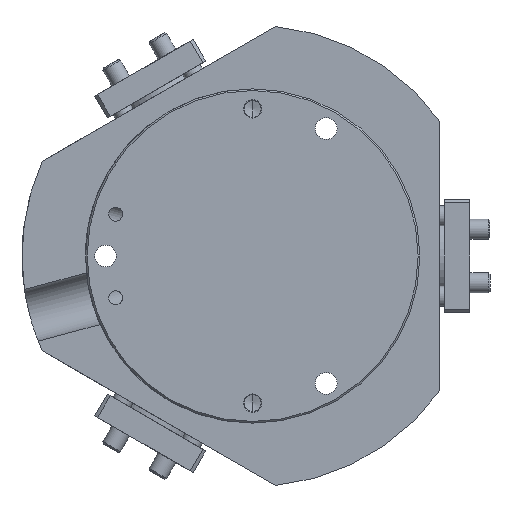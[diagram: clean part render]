
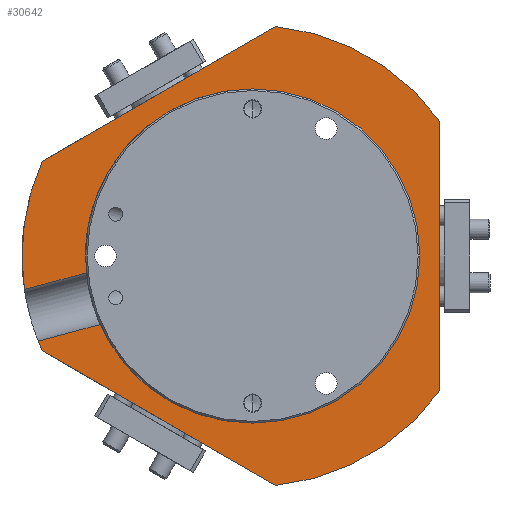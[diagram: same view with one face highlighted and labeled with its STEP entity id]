
A CAD part, front view. The second image highlights one B-rep face of the part: STEP entity #30642.
In plain terms, the highlighted planar face has unit normal (0, -1, 0).
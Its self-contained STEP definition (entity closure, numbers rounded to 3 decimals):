
#629 = VERTEX_POINT ( 'NONE', #15948 ) ;
#1584 = EDGE_CURVE ( 'NONE', #46647, #32593, #10494, .T. ) ;
#1802 = AXIS2_PLACEMENT_3D ( 'NONE', #25853, #3123, #29672 ) ;
#1860 = CIRCLE ( 'NONE', #38811, 69. ) ;
#2166 = AXIS2_PLACEMENT_3D ( 'NONE', #35647, #12889, #39495 ) ;
#3123 = DIRECTION ( 'NONE',  ( 0., -1., 0. ) ) ;
#3415 = CARTESIAN_POINT ( 'NONE',  ( -62.911, 29., 28.342 ) ) ;
#3858 = AXIS2_PLACEMENT_3D ( 'NONE', #10645, #37222, #14459 ) ;
#4110 = CARTESIAN_POINT ( 'NONE',  ( 0., 29., 0. ) ) ;
#4195 = VERTEX_POINT ( 'NONE', #48943 ) ;
#5142 = EDGE_CURVE ( 'NONE', #32029, #18481, #31767, .T. ) ;
#5166 = AXIS2_PLACEMENT_3D ( 'NONE', #6334, #32876, #10134 ) ;
#5312 = EDGE_CURVE ( 'NONE', #15355, #629, #28189, .T. ) ;
#5583 = LINE ( 'NONE', #12102, #6805 ) ;
#6167 = CARTESIAN_POINT ( 'NONE',  ( 0., 29., -50. ) ) ;
#6334 = CARTESIAN_POINT ( 'NONE',  ( 0., 29., 0. ) ) ;
#6532 = EDGE_CURVE ( 'NONE', #39493, #37063, #5583, .T. ) ;
#6611 = CARTESIAN_POINT ( 'NONE',  ( 0., 29., 0. ) ) ;
#6805 = VECTOR ( 'NONE', #46026, 1000. ) ;
#7025 = VECTOR ( 'NONE', #16138, 1000. ) ;
#7643 = CARTESIAN_POINT ( 'NONE',  ( -45.604, 29., -20.502 ) ) ;
#7812 = ORIENTED_EDGE ( 'NONE', *, *, #39712, .F. ) ;
#7942 = DIRECTION ( 'NONE',  ( 0., 0., -1. ) ) ;
#8058 = VECTOR ( 'NONE', #15436, 1000. ) ;
#8635 = VERTEX_POINT ( 'NONE', #33684 ) ;
#9847 = AXIS2_PLACEMENT_3D ( 'NONE', #16336, #42915, #20140 ) ;
#10134 = DIRECTION ( 'NONE',  ( 0., 0., -1. ) ) ;
#10419 = DIRECTION ( 'NONE',  ( 0., 0., 1. ) ) ;
#10494 = LINE ( 'NONE', #17012, #39592 ) ;
#10645 = CARTESIAN_POINT ( 'NONE',  ( 0., 29., 0. ) ) ;
#11900 = ORIENTED_EDGE ( 'NONE', *, *, #29589, .F. ) ;
#12102 = CARTESIAN_POINT ( 'NONE',  ( 6.911, 29., -68.653 ) ) ;
#12601 = LINE ( 'NONE', #19259, #30474 ) ;
#12889 = DIRECTION ( 'NONE',  ( 0., 1., 0. ) ) ;
#14277 = ORIENTED_EDGE ( 'NONE', *, *, #6532, .F. ) ;
#14459 = DIRECTION ( 'NONE',  ( 0., 0., -1. ) ) ;
#15355 = VERTEX_POINT ( 'NONE', #18206 ) ;
#15365 = EDGE_CURVE ( 'NONE', #18481, #4195, #44630, .T. ) ;
#15436 = DIRECTION ( 'NONE',  ( 0., 0., -1. ) ) ;
#15948 = CARTESIAN_POINT ( 'NONE',  ( 56., 29., -40.311 ) ) ;
#16138 = DIRECTION ( 'NONE',  ( -0.966, 0., -0.259 ) ) ;
#16218 = CARTESIAN_POINT ( 'NONE',  ( -64.129, 29., -25.465 ) ) ;
#16336 = CARTESIAN_POINT ( 'NONE',  ( 0., 29., 0. ) ) ;
#16640 = ORIENTED_EDGE ( 'NONE', *, *, #28043, .F. ) ;
#17012 = CARTESIAN_POINT ( 'NONE',  ( -64.129, 29., -25.465 ) ) ;
#17294 = DIRECTION ( 'NONE',  ( 0., 1., 0. ) ) ;
#17531 = AXIS2_PLACEMENT_3D ( 'NONE', #40078, #17294, #43885 ) ;
#18206 = CARTESIAN_POINT ( 'NONE',  ( 56., 29., 40.311 ) ) ;
#18481 = VERTEX_POINT ( 'NONE', #45456 ) ;
#19259 = CARTESIAN_POINT ( 'NONE',  ( -62.911, 29., 28.342 ) ) ;
#20140 = DIRECTION ( 'NONE',  ( 0., 0., -1. ) ) ;
#20226 = CIRCLE ( 'NONE', #3858, 69. ) ;
#20607 = CIRCLE ( 'NONE', #17531, 69. ) ;
#22620 = ORIENTED_EDGE ( 'NONE', *, *, #29722, .F. ) ;
#24339 = ORIENTED_EDGE ( 'NONE', *, *, #30269, .F. ) ;
#24817 = CARTESIAN_POINT ( 'NONE',  ( -62.911, 29., -28.342 ) ) ;
#25569 = ORIENTED_EDGE ( 'NONE', *, *, #5312, .F. ) ;
#25853 = CARTESIAN_POINT ( 'NONE',  ( 0., 29., 0. ) ) ;
#27937 = ORIENTED_EDGE ( 'NONE', *, *, #37185, .F. ) ;
#28043 = EDGE_CURVE ( 'NONE', #49089, #38214, #12601, .T. ) ;
#28189 = LINE ( 'NONE', #38209, #8058 ) ;
#29256 = AXIS2_PLACEMENT_3D ( 'NONE', #6611, #33160, #10419 ) ;
#29589 = EDGE_CURVE ( 'NONE', #37063, #46647, #1860, .T. ) ;
#29672 = DIRECTION ( 'NONE',  ( 0., 0., -1. ) ) ;
#29722 = EDGE_CURVE ( 'NONE', #32593, #32029, #38710, .T. ) ;
#30269 = EDGE_CURVE ( 'NONE', #629, #39493, #20226, .T. ) ;
#30350 = ORIENTED_EDGE ( 'NONE', *, *, #5142, .F. ) ;
#30474 = VECTOR ( 'NONE', #38386, 1000. ) ;
#30642 = ADVANCED_FACE ( 'NONE', ( #34512 ), #36456, .F. ) ;
#30663 = DIRECTION ( 'NONE',  ( 0., 1., 0. ) ) ;
#31767 = CIRCLE ( 'NONE', #5166, 50. ) ;
#32029 = VERTEX_POINT ( 'NONE', #6167 ) ;
#32593 = VERTEX_POINT ( 'NONE', #7643 ) ;
#32697 = ORIENTED_EDGE ( 'NONE', *, *, #1584, .F. ) ;
#32876 = DIRECTION ( 'NONE',  ( 0., -1., 0. ) ) ;
#33160 = DIRECTION ( 'NONE',  ( 0., 1., 0. ) ) ;
#33684 = CARTESIAN_POINT ( 'NONE',  ( -68.27, 29., -10.011 ) ) ;
#34512 = FACE_OUTER_BOUND ( 'NONE', #38143, .T. ) ;
#35233 = EDGE_CURVE ( 'NONE', #38214, #15355, #20607, .T. ) ;
#35647 = CARTESIAN_POINT ( 'NONE',  ( 0., 29., 0. ) ) ;
#36073 = LINE ( 'NONE', #38919, #7025 ) ;
#36456 = PLANE ( 'NONE',  #29256 ) ;
#37063 = VERTEX_POINT ( 'NONE', #24817 ) ;
#37185 = EDGE_CURVE ( 'NONE', #4195, #8635, #36073, .T. ) ;
#37222 = DIRECTION ( 'NONE',  ( 0., 1., 0. ) ) ;
#37397 = CARTESIAN_POINT ( 'NONE',  ( 6.911, 29., -68.653 ) ) ;
#38084 = ORIENTED_EDGE ( 'NONE', *, *, #15365, .F. ) ;
#38143 = EDGE_LOOP ( 'NONE', ( #11900, #14277, #24339, #25569, #45822, #16640, #7812, #27937, #38084, #30350, #22620, #32697 ) ) ;
#38209 = CARTESIAN_POINT ( 'NONE',  ( 56., 29., 0. ) ) ;
#38214 = VERTEX_POINT ( 'NONE', #48245 ) ;
#38386 = DIRECTION ( 'NONE',  ( 0.866, 0., 0.5 ) ) ;
#38710 = CIRCLE ( 'NONE', #9847, 50. ) ;
#38811 = AXIS2_PLACEMENT_3D ( 'NONE', #4110, #30663, #7942 ) ;
#38919 = CARTESIAN_POINT ( 'NONE',  ( -49.745, 29., -5.047 ) ) ;
#39493 = VERTEX_POINT ( 'NONE', #37397 ) ;
#39495 = DIRECTION ( 'NONE',  ( 0., 0., -1. ) ) ;
#39592 = VECTOR ( 'NONE', #47415, 1000. ) ;
#39712 = EDGE_CURVE ( 'NONE', #8635, #49089, #41387, .T. ) ;
#40078 = CARTESIAN_POINT ( 'NONE',  ( 0., 29., 0. ) ) ;
#41387 = CIRCLE ( 'NONE', #2166, 69. ) ;
#42915 = DIRECTION ( 'NONE',  ( 0., -1., 0. ) ) ;
#43885 = DIRECTION ( 'NONE',  ( 0., 0., -1. ) ) ;
#44630 = CIRCLE ( 'NONE', #1802, 50. ) ;
#45456 = CARTESIAN_POINT ( 'NONE',  ( 0., 29., 50. ) ) ;
#45822 = ORIENTED_EDGE ( 'NONE', *, *, #35233, .F. ) ;
#46026 = DIRECTION ( 'NONE',  ( -0.866, 0., 0.5 ) ) ;
#46647 = VERTEX_POINT ( 'NONE', #16218 ) ;
#47415 = DIRECTION ( 'NONE',  ( 0.966, 0., 0.259 ) ) ;
#48245 = CARTESIAN_POINT ( 'NONE',  ( 6.911, 29., 68.653 ) ) ;
#48943 = CARTESIAN_POINT ( 'NONE',  ( -49.745, 29., -5.047 ) ) ;
#49089 = VERTEX_POINT ( 'NONE', #3415 ) ;
